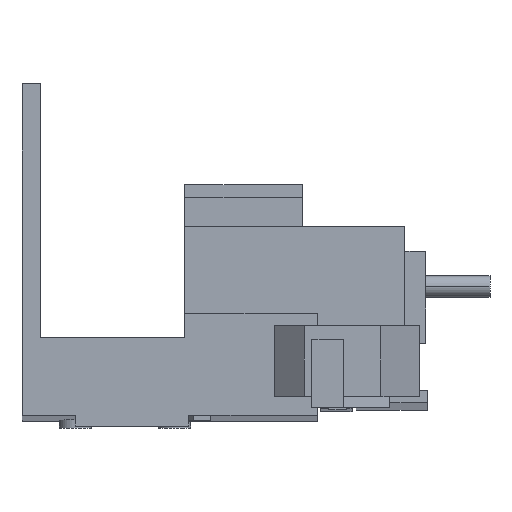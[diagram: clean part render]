
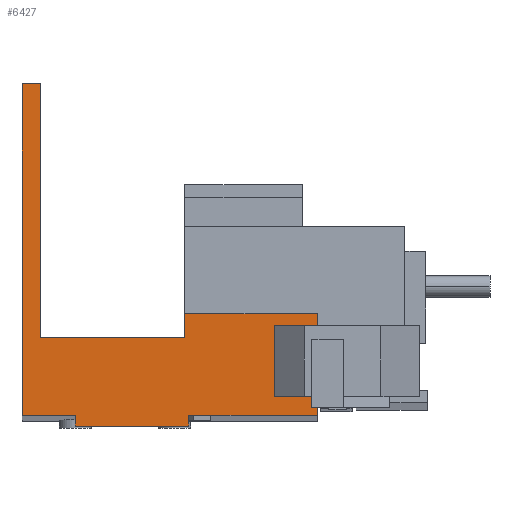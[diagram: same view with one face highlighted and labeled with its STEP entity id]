
A CAD part, front view. The second image highlights one B-rep face of the part: STEP entity #6427.
In plain terms, the highlighted planar face has unit normal (0, -1, 0.002).
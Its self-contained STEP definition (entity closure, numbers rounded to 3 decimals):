
#243 = CARTESIAN_POINT ( 'NONE',  ( 2.55, -32.978, 10.519 ) ) ;
#262 = DIRECTION ( 'NONE',  ( 1., 0., 0. ) ) ;
#327 = CARTESIAN_POINT ( 'NONE',  ( 41.6, -33.046, -21.831 ) ) ;
#334 = DIRECTION ( 'NONE',  ( 1., 0., 0. ) ) ;
#769 = DIRECTION ( 'NONE',  ( 0., 0.002, 1. ) ) ;
#770 = CARTESIAN_POINT ( 'NONE',  ( 23.5, -33.079, -37.681 ) ) ;
#808 = CARTESIAN_POINT ( 'NONE',  ( 2.55, -33.072, -34.53 ) ) ;
#813 = DIRECTION ( 'NONE',  ( 0., -0.002, -1. ) ) ;
#1007 = CARTESIAN_POINT ( 'NONE',  ( 41.6, -33.076, -36.181 ) ) ;
#1008 = DIRECTION ( 'NONE',  ( 0., -0.002, -1. ) ) ;
#1111 = VERTEX_POINT ( 'NONE', #5093 ) ;
#1176 = VERTEX_POINT ( 'NONE', #5122 ) ;
#1354 = CARTESIAN_POINT ( 'NONE',  ( 0., -33.076, -36.181 ) ) ;
#1355 = DIRECTION ( 'NONE',  ( -1., 0., 0. ) ) ;
#1357 = CARTESIAN_POINT ( 'NONE',  ( 2., -33.053, -25.181 ) ) ;
#1360 = DIRECTION ( 'NONE',  ( 1., 0., 0. ) ) ;
#1375 = CARTESIAN_POINT ( 'NONE',  ( 7.5, -33.079, -37.681 ) ) ;
#1377 = DIRECTION ( 'NONE',  ( 0., 0.002, 1. ) ) ;
#1390 = CARTESIAN_POINT ( 'NONE',  ( 7.5, -33.079, -37.681 ) ) ;
#1391 = DIRECTION ( 'NONE',  ( 1., 0., 0. ) ) ;
#1429 = EDGE_LOOP ( 'NONE', ( #4104, #4105, #4106, #4107, #4108, #4109, #4110, #4058, #4059, #4062, #4063, #4064 ) ) ;
#1576 = VERTEX_POINT ( 'NONE', #5234 ) ;
#1582 = VERTEX_POINT ( 'NONE', #5235 ) ;
#1591 = CARTESIAN_POINT ( 'NONE',  ( 0., -32.978, 10.519 ) ) ;
#1594 = DIRECTION ( 'NONE',  ( 0., 0.002, 1. ) ) ;
#1698 = VERTEX_POINT ( 'NONE', #5253 ) ;
#1882 = VERTEX_POINT ( 'NONE', #5279 ) ;
#2076 = VERTEX_POINT ( 'NONE', #5329 ) ;
#2086 = VERTEX_POINT ( 'NONE', #5333 ) ;
#2123 = CARTESIAN_POINT ( 'NONE',  ( 0., -33.076, -36.181 ) ) ;
#2131 = PLANE ( 'NONE',  #2694 ) ;
#2135 = DIRECTION ( 'NONE',  ( 0., 1., -0.002 ) ) ;
#2136 = DIRECTION ( 'NONE',  ( 1., 0., 0. ) ) ;
#2143 = VERTEX_POINT ( 'NONE', #5339 ) ;
#2150 = VERTEX_POINT ( 'NONE', #5341 ) ;
#2353 = VERTEX_POINT ( 'NONE', #5363 ) ;
#2359 = VERTEX_POINT ( 'NONE', #5368 ) ;
#2694 = AXIS2_PLACEMENT_3D ( 'NONE', #2123, #2135, #2136 ) ;
#2893 = DIRECTION ( 'NONE',  ( 0., 0.002, 1. ) ) ;
#2922 = CARTESIAN_POINT ( 'NONE',  ( 22.92, -33.046, -21.831 ) ) ;
#3178 = FACE_OUTER_BOUND ( 'NONE', #1429, .T. ) ;
#3212 = LINE ( 'NONE', #808, #3528 ) ;
#3239 = VECTOR ( 'NONE', #1391, 1000. ) ;
#3243 = LINE ( 'NONE', #1390, #3239 ) ;
#3256 = VECTOR ( 'NONE', #1377, 1000. ) ;
#3283 = VECTOR ( 'NONE', #1360, 1000. ) ;
#3306 = LINE ( 'NONE', #1357, #3283 ) ;
#3309 = VECTOR ( 'NONE', #1355, 1000. ) ;
#3315 = LINE ( 'NONE', #1354, #3309 ) ;
#3405 = VECTOR ( 'NONE', #769, 1000. ) ;
#3409 = LINE ( 'NONE', #770, #3405 ) ;
#3428 = LINE ( 'NONE', #1007, #3668 ) ;
#3482 = VECTOR ( 'NONE', #1594, 1000. ) ;
#3486 = LINE ( 'NONE', #1591, #3482 ) ;
#3528 = VECTOR ( 'NONE', #813, 1000. ) ;
#3668 = VECTOR ( 'NONE', #1008, 1000. ) ;
#3680 = LINE ( 'NONE', #1375, #3256 ) ;
#4058 = ORIENTED_EDGE ( 'NONE', *, *, #6105, .T. ) ;
#4059 = ORIENTED_EDGE ( 'NONE', *, *, #5659, .F. ) ;
#4062 = ORIENTED_EDGE ( 'NONE', *, *, #6209, .F. ) ;
#4063 = ORIENTED_EDGE ( 'NONE', *, *, #5916, .F. ) ;
#4064 = ORIENTED_EDGE ( 'NONE', *, *, #5812, .F. ) ;
#4104 = ORIENTED_EDGE ( 'NONE', *, *, #6265, .F. ) ;
#4105 = ORIENTED_EDGE ( 'NONE', *, *, #6120, .F. ) ;
#4106 = ORIENTED_EDGE ( 'NONE', *, *, #5881, .F. ) ;
#4107 = ORIENTED_EDGE ( 'NONE', *, *, #6317, .F. ) ;
#4108 = ORIENTED_EDGE ( 'NONE', *, *, #6264, .F. ) ;
#4109 = ORIENTED_EDGE ( 'NONE', *, *, #6269, .F. ) ;
#4110 = ORIENTED_EDGE ( 'NONE', *, *, #6274, .T. ) ;
#4212 = LINE ( 'NONE', #327, #4254 ) ;
#4254 = VECTOR ( 'NONE', #334, 1000. ) ;
#4384 = LINE ( 'NONE', #243, #4389 ) ;
#4389 = VECTOR ( 'NONE', #262, 1000. ) ;
#4429 = LINE ( 'NONE', #5462, #4436 ) ;
#4436 = VECTOR ( 'NONE', #5467, 1000. ) ;
#4469 = LINE ( 'NONE', #2922, #4473 ) ;
#4473 = VECTOR ( 'NONE', #2893, 1000. ) ;
#5093 = CARTESIAN_POINT ( 'NONE',  ( 23.5, -33.079, -37.681 ) ) ;
#5122 = CARTESIAN_POINT ( 'NONE',  ( 22.92, -33.046, -21.831 ) ) ;
#5234 = CARTESIAN_POINT ( 'NONE',  ( 0., -32.978, 10.519 ) ) ;
#5235 = CARTESIAN_POINT ( 'NONE',  ( 2.55, -32.978, 10.519 ) ) ;
#5253 = CARTESIAN_POINT ( 'NONE',  ( 22.92, -33.053, -25.181 ) ) ;
#5279 = CARTESIAN_POINT ( 'NONE',  ( 0., -33.076, -36.181 ) ) ;
#5329 = CARTESIAN_POINT ( 'NONE',  ( 23.5, -33.076, -36.181 ) ) ;
#5333 = CARTESIAN_POINT ( 'NONE',  ( 7.5, -33.076, -36.181 ) ) ;
#5339 = CARTESIAN_POINT ( 'NONE',  ( 7.5, -33.079, -37.681 ) ) ;
#5341 = CARTESIAN_POINT ( 'NONE',  ( 2.55, -33.053, -25.181 ) ) ;
#5363 = CARTESIAN_POINT ( 'NONE',  ( 41.6, -33.076, -36.181 ) ) ;
#5368 = CARTESIAN_POINT ( 'NONE',  ( 41.6, -33.046, -21.831 ) ) ;
#5462 = CARTESIAN_POINT ( 'NONE',  ( 0., -33.076, -36.181 ) ) ;
#5467 = DIRECTION ( 'NONE',  ( -1., 0., 0. ) ) ;
#5659 = EDGE_CURVE ( 'NONE', #2353, #2076, #4429, .T. ) ;
#5812 = EDGE_CURVE ( 'NONE', #1698, #1176, #4469, .T. ) ;
#5881 = EDGE_CURVE ( 'NONE', #1576, #1582, #4384, .T. ) ;
#5916 = EDGE_CURVE ( 'NONE', #1176, #2359, #4212, .T. ) ;
#6105 = EDGE_CURVE ( 'NONE', #1111, #2076, #3409, .T. ) ;
#6120 = EDGE_CURVE ( 'NONE', #1582, #2150, #3212, .T. ) ;
#6209 = EDGE_CURVE ( 'NONE', #2359, #2353, #3428, .T. ) ;
#6264 = EDGE_CURVE ( 'NONE', #2086, #1882, #3315, .T. ) ;
#6265 = EDGE_CURVE ( 'NONE', #2150, #1698, #3306, .T. ) ;
#6269 = EDGE_CURVE ( 'NONE', #2143, #2086, #3680, .T. ) ;
#6274 = EDGE_CURVE ( 'NONE', #2143, #1111, #3243, .T. ) ;
#6317 = EDGE_CURVE ( 'NONE', #1882, #1576, #3486, .T. ) ;
#6427 = ADVANCED_FACE ( 'NONE', ( #3178 ), #2131, .F. ) ;
